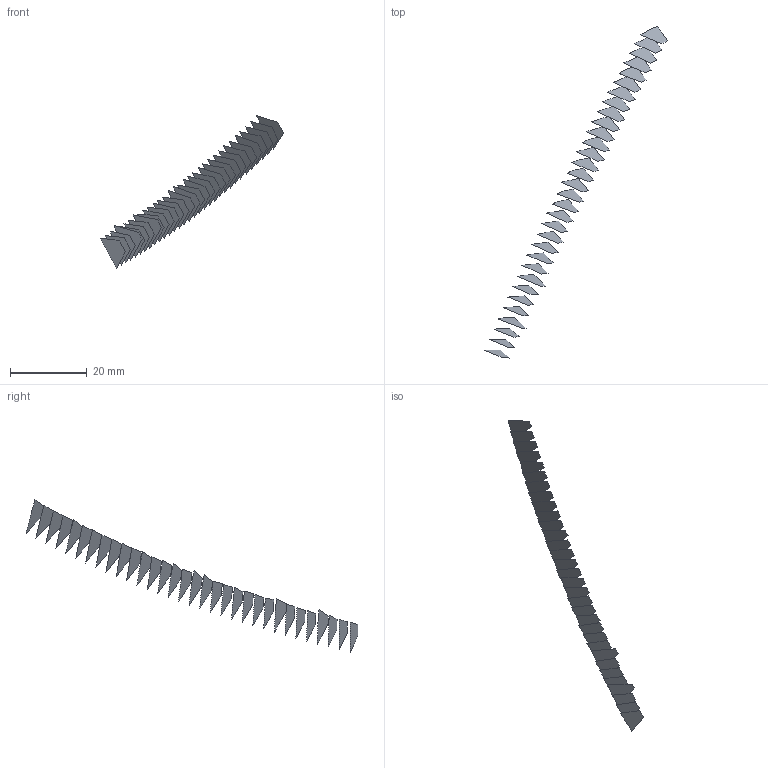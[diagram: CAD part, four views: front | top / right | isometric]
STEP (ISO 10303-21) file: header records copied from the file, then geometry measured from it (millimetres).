
FILE_DESCRIPTION(('FreeCAD Model'),'2;1');
FILE_NAME('Open CASCADE Shape Model','2022-05-22T07:50:30',('FreeCAD'),( 'FreeCAD'),'Open CASCADE STEP processor 7.5','FreeCAD','Unknown');
FILE_SCHEMA(('AUTOMOTIVE_DESIGN { 1 0 10303 214 1 1 1 1 }'));
Length unit declared in the file: millimetre
Products named in the file (33): Open CASCADE STEP translator 7.5 4; Open CASCADE STEP translator 7.5 4.1; Open CASCADE STEP translator 7.5 4.2; Open CASCADE STEP translator 7.5 4.3; Open CASCADE STEP translator 7.5 4.4; Open CASCADE STEP translator 7.5 4.5; Open CASCADE STEP translator 7.5 4.6; Open CASCADE STEP translator 7.5 4.7; Open CASCADE STEP translator 7.5 4.8; Open CASCADE STEP translator 7.5 4.9; Open CASCADE STEP translator 7.5 4.10; Open CASCADE STEP translator 7.5 4.11; Open CASCADE STEP translator 7.5 4.12; Open CASCADE STEP translator 7.5 4.13; Open CASCADE STEP translator 7.5 4.14; Open CASCADE STEP translator 7.5 4.15; Open CASCADE STEP translator 7.5 4.16; Open CASCADE STEP translator 7.5 4.17; Open CASCADE STEP translator 7.5 4.18; Open CASCADE STEP translator 7.5 4.19; Open CASCADE STEP translator 7.5 4.20; Open CASCADE STEP translator 7.5 4.21; Open CASCADE STEP translator 7.5 4.22; Open CASCADE STEP translator 7.5 4.23; Open CASCADE STEP translator 7.5 4.24; Open CASCADE STEP translator 7.5 4.25; Open CASCADE STEP translator 7.5 4.26; Open CASCADE STEP translator 7.5 4.27; Open CASCADE STEP translator 7.5 4.28; Open CASCADE STEP translator 7.5 4.29; Open CASCADE STEP translator 7.5 4.30; Open CASCADE STEP translator 7.5 4.31; Open CASCADE STEP translator 7.5 4.32
Assembly tree (32 placements, depth 2):
  Open CASCADE STEP translator 7.5 4
    Open CASCADE STEP translator 7.5 4.1
    Open CASCADE STEP translator 7.5 4.2
    Open CASCADE STEP translator 7.5 4.3
    Open CASCADE STEP translator 7.5 4.4
    Open CASCADE STEP translator 7.5 4.5
    Open CASCADE STEP translator 7.5 4.6
    Open CASCADE STEP translator 7.5 4.7
    Open CASCADE STEP translator 7.5 4.8
    Open CASCADE STEP translator 7.5 4.9
    Open CASCADE STEP translator 7.5 4.10
    Open CASCADE STEP translator 7.5 4.11
    Open CASCADE STEP translator 7.5 4.12
    Open CASCADE STEP translator 7.5 4.13
    Open CASCADE STEP translator 7.5 4.14
    Open CASCADE STEP translator 7.5 4.15
    Open CASCADE STEP translator 7.5 4.16
    Open CASCADE STEP translator 7.5 4.17
    Open CASCADE STEP translator 7.5 4.18
    Open CASCADE STEP translator 7.5 4.19
    Open CASCADE STEP translator 7.5 4.20
    Open CASCADE STEP translator 7.5 4.21
    Open CASCADE STEP translator 7.5 4.22
    Open CASCADE STEP translator 7.5 4.23
    Open CASCADE STEP translator 7.5 4.24
    Open CASCADE STEP translator 7.5 4.25
    Open CASCADE STEP translator 7.5 4.26
    Open CASCADE STEP translator 7.5 4.27
    Open CASCADE STEP translator 7.5 4.28
    Open CASCADE STEP translator 7.5 4.29
    Open CASCADE STEP translator 7.5 4.30
    Open CASCADE STEP translator 7.5 4.31
    Open CASCADE STEP translator 7.5 4.32
Bounding box: 47.86 x 86.65 x 39.86 mm (x, y, z)
Surface area: 1085.1 mm2 (no closed solid volume)
Topology: 0 solids, 32 shells, 32 faces, 698 edges, 698 vertices
Faces by surface type: bspline 32
Entity records: 9986 total; most frequent: CARTESIAN_POINT 3651, B_SPLINE_CURVE_WITH_KNOTS 1396, ORIENTED_EDGE 698, EDGE_CURVE 698, VERTEX_POINT 698, SURFACE_CURVE 698, PCURVE 698, DEFINITIONAL_REPRESENTATION 698
